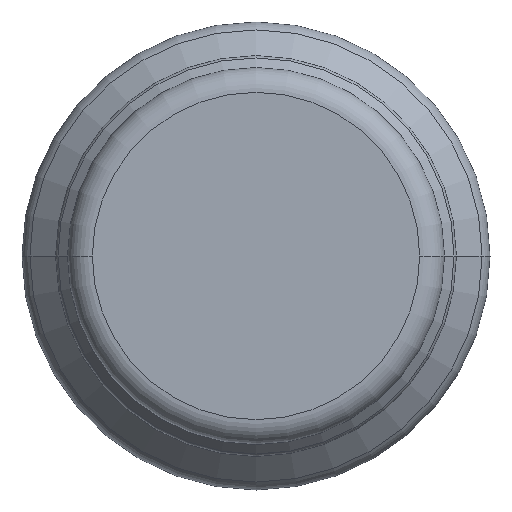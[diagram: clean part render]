
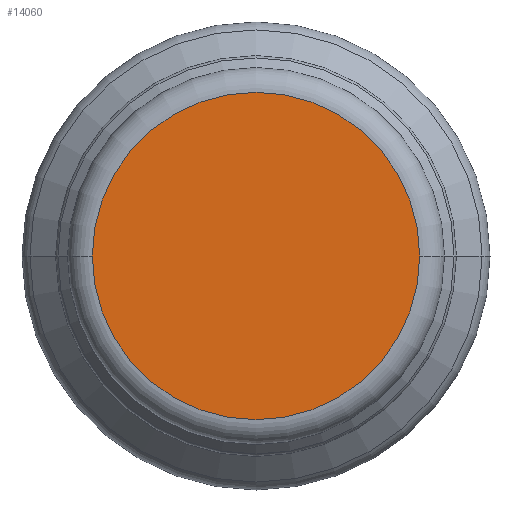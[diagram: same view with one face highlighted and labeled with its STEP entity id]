
A CAD part, left-side view. The second image highlights one B-rep face of the part: STEP entity #14060.
In plain terms, the highlighted planar face has unit normal (-1, 0, 0).
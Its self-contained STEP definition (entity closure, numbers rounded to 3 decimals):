
#13860=CARTESIAN_POINT('',(-32.,27.906,24.661));
#13870=DIRECTION('',(-1.,0.,0.));
#13880=DIRECTION('',(0.,-1.,0.));
#13890=AXIS2_PLACEMENT_3D('',#13860,#13870,#13880);
#13900=PLANE('',#13890);
#13910=CARTESIAN_POINT('',(-32.,0.,0.));
#13920=DIRECTION('',(1.,0.,0.));
#13930=DIRECTION('',(0.,-1.,0.));
#13940=AXIS2_PLACEMENT_3D('',#13910,#13920,#13930);
#13950=CIRCLE('',#13940,33.05);
#13960=CARTESIAN_POINT('',(-32.,33.05,0.));
#13970=VERTEX_POINT('',#13960);
#13980=CARTESIAN_POINT('',(-32.,-33.05,0.));
#13990=VERTEX_POINT('',#13980);
#14000=EDGE_CURVE('',#13970,#13990,#13950,.T.);
#14010=ORIENTED_EDGE('',*,*,#14000,.F.);
#14020=EDGE_CURVE('',#13990,#13970,#13950,.T.);
#14030=ORIENTED_EDGE('',*,*,#14020,.F.);
#14040=EDGE_LOOP('',(#14030,#14010));
#14050=FACE_OUTER_BOUND('',#14040,.T.);
#14060=ADVANCED_FACE('',(#14050),#13900,.T.);
